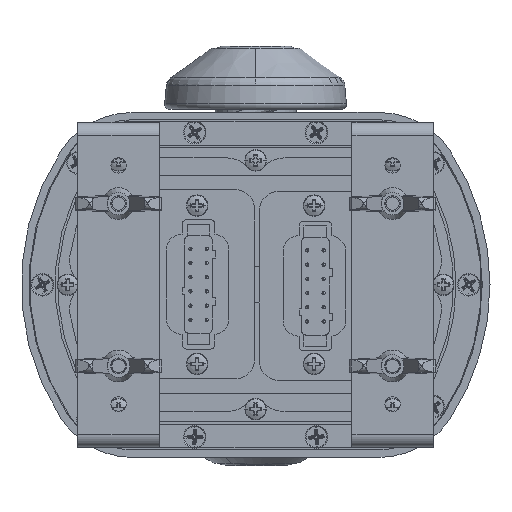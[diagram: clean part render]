
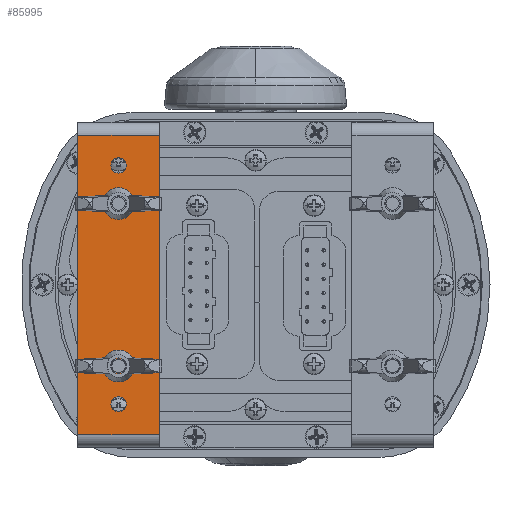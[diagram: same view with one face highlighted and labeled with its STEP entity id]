
A CAD part, front view. The second image highlights one B-rep face of the part: STEP entity #85995.
In plain terms, the highlighted planar face has unit normal (0, -1, 0) as drawn and (0, 1, 0) by its records, which use the part's own axes.
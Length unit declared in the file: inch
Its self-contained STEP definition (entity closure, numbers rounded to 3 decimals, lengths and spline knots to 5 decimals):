
#85021=CARTESIAN_POINT('',(1.47,0.125,-0.5));
#85022=DIRECTION('',(0.,-1.,0.));
#85023=DIRECTION('',(0.,0.,1.));
#85024=AXIS2_PLACEMENT_3D('',#85021,#85022,#85023);
#85068=DIRECTION('',(-1.,0.,0.));
#85069=VECTOR('',#85068,3.6875);
#85070=CARTESIAN_POINT('',(1.84375,0.125,0.));
#85071=LINE('',#85070,#85069);
#85082=DIRECTION('',(0.,0.,1.));
#85083=VECTOR('',#85082,1.);
#85084=CARTESIAN_POINT('',(-1.84375,0.125,-1.));
#85085=LINE('',#85084,#85083);
#85235=DIRECTION('',(-1.,0.,0.));
#85236=VECTOR('',#85235,3.6875);
#85237=CARTESIAN_POINT('',(1.84375,0.125,-1.));
#85238=LINE('',#85237,#85236);
#85410=DIRECTION('',(0.,0.,-1.));
#85411=VECTOR('',#85410,1.);
#85412=CARTESIAN_POINT('',(1.84375,0.125,0.));
#85413=LINE('',#85412,#85411);
#85566=CARTESIAN_POINT('',(1.47,0.125,-0.5));
#85567=DIRECTION('',(0.,-1.,0.));
#85568=DIRECTION('',(0.,0.,-1.));
#85569=AXIS2_PLACEMENT_3D('',#85566,#85567,#85568);
#85580=CARTESIAN_POINT('',(1.,0.125,-0.5));
#85581=DIRECTION('',(0.,-1.,0.));
#85582=DIRECTION('',(0.,0.,-1.));
#85583=AXIS2_PLACEMENT_3D('',#85580,#85581,#85582);
#85599=CARTESIAN_POINT('',(1.,0.125,-0.5));
#85600=DIRECTION('',(0.,-1.,0.));
#85601=DIRECTION('',(0.,0.,1.));
#85602=AXIS2_PLACEMENT_3D('',#85599,#85600,#85601);
#85608=CARTESIAN_POINT('',(-1.,0.125,-0.5));
#85609=DIRECTION('',(0.,-1.,0.));
#85610=DIRECTION('',(0.,0.,-1.));
#85611=AXIS2_PLACEMENT_3D('',#85608,#85609,#85610);
#85627=CARTESIAN_POINT('',(-1.,0.125,-0.5));
#85628=DIRECTION('',(0.,-1.,0.));
#85629=DIRECTION('',(0.,0.,1.));
#85630=AXIS2_PLACEMENT_3D('',#85627,#85628,#85629);
#85636=CARTESIAN_POINT('',(-1.47,0.125,-0.5));
#85637=DIRECTION('',(0.,-1.,0.));
#85638=DIRECTION('',(0.,0.,-1.));
#85639=AXIS2_PLACEMENT_3D('',#85636,#85637,#85638);
#85655=CARTESIAN_POINT('',(-1.47,0.125,-0.5));
#85656=DIRECTION('',(0.,-1.,0.));
#85657=DIRECTION('',(0.,0.,1.));
#85658=AXIS2_PLACEMENT_3D('',#85655,#85656,#85657);
#85746=CARTESIAN_POINT('',(-1.84375,0.125,-1.));
#85747=CARTESIAN_POINT('',(-1.84375,0.125,0.));
#85748=VERTEX_POINT('',#85746);
#85749=VERTEX_POINT('',#85747);
#85750=CARTESIAN_POINT('',(1.47,0.125,-0.59375));
#85751=CARTESIAN_POINT('',(1.47,0.125,-0.40625));
#85752=VERTEX_POINT('',#85750);
#85753=VERTEX_POINT('',#85751);
#85754=CARTESIAN_POINT('',(1.,0.125,-0.59375));
#85755=CARTESIAN_POINT('',(1.,0.125,-0.40625));
#85756=VERTEX_POINT('',#85754);
#85757=VERTEX_POINT('',#85755);
#85758=CARTESIAN_POINT('',(-1.,0.125,-0.59375));
#85759=CARTESIAN_POINT('',(-1.,0.125,-0.40625));
#85760=VERTEX_POINT('',#85758);
#85761=VERTEX_POINT('',#85759);
#85762=CARTESIAN_POINT('',(-1.47,0.125,-0.59375));
#85763=CARTESIAN_POINT('',(-1.47,0.125,-0.40625));
#85764=VERTEX_POINT('',#85762);
#85765=VERTEX_POINT('',#85763);
#85770=CARTESIAN_POINT('',(1.84375,0.125,0.));
#85771=VERTEX_POINT('',#85770);
#85776=CARTESIAN_POINT('',(1.84375,0.125,-1.));
#85778=VERTEX_POINT('',#85776);
#85958=CARTESIAN_POINT('',(-1.875,0.125,-1.));
#85959=DIRECTION('',(0.,-1.,0.));
#85960=DIRECTION('',(0.,0.,-1.));
#85961=AXIS2_PLACEMENT_3D('',#85958,#85959,#85960);
#85962=PLANE('',#85961);
#85964=ORIENTED_EDGE('',*,*,#85963,.F.);
#85966=ORIENTED_EDGE('',*,*,#85965,.F.);
#85968=ORIENTED_EDGE('',*,*,#85967,.F.);
#85969=ORIENTED_EDGE('',*,*,#85932,.T.);
#85970=EDGE_LOOP('',(#85964,#85966,#85968,#85969));
#85971=FACE_OUTER_BOUND('',#85970,.F.);
#85973=ORIENTED_EDGE('',*,*,#85972,.F.);
#85974=ORIENTED_EDGE('',*,*,#85881,.F.);
#85975=EDGE_LOOP('',(#85973,#85974));
#85976=FACE_BOUND('',#85975,.F.);
#85978=ORIENTED_EDGE('',*,*,#85977,.F.);
#85980=ORIENTED_EDGE('',*,*,#85979,.F.);
#85981=EDGE_LOOP('',(#85978,#85980));
#85982=FACE_BOUND('',#85981,.F.);
#85984=ORIENTED_EDGE('',*,*,#85983,.F.);
#85986=ORIENTED_EDGE('',*,*,#85985,.F.);
#85987=EDGE_LOOP('',(#85984,#85986));
#85988=FACE_BOUND('',#85987,.F.);
#85990=ORIENTED_EDGE('',*,*,#85989,.F.);
#85992=ORIENTED_EDGE('',*,*,#85991,.F.);
#85993=EDGE_LOOP('',(#85990,#85992));
#85994=FACE_BOUND('',#85993,.F.);
#85995=ADVANCED_FACE('',(#85971,#85976,#85982,#85988,#85994),#85962,.F.);
#85025=CIRCLE('',#85024,0.09375);
#85570=CIRCLE('',#85569,0.09375);
#85584=CIRCLE('',#85583,0.09375);
#85603=CIRCLE('',#85602,0.09375);
#85612=CIRCLE('',#85611,0.09375);
#85631=CIRCLE('',#85630,0.09375);
#85640=CIRCLE('',#85639,0.09375);
#85659=CIRCLE('',#85658,0.09375);
#85881=EDGE_CURVE('',#85753,#85752,#85025,.T.);
#85932=EDGE_CURVE('',#85771,#85749,#85071,.T.);
#85963=EDGE_CURVE('',#85748,#85749,#85085,.T.);
#85965=EDGE_CURVE('',#85778,#85748,#85238,.T.);
#85967=EDGE_CURVE('',#85771,#85778,#85413,.T.);
#85972=EDGE_CURVE('',#85752,#85753,#85570,.T.);
#85977=EDGE_CURVE('',#85756,#85757,#85584,.T.);
#85979=EDGE_CURVE('',#85757,#85756,#85603,.T.);
#85983=EDGE_CURVE('',#85760,#85761,#85612,.T.);
#85985=EDGE_CURVE('',#85761,#85760,#85631,.T.);
#85989=EDGE_CURVE('',#85764,#85765,#85640,.T.);
#85991=EDGE_CURVE('',#85765,#85764,#85659,.T.);
